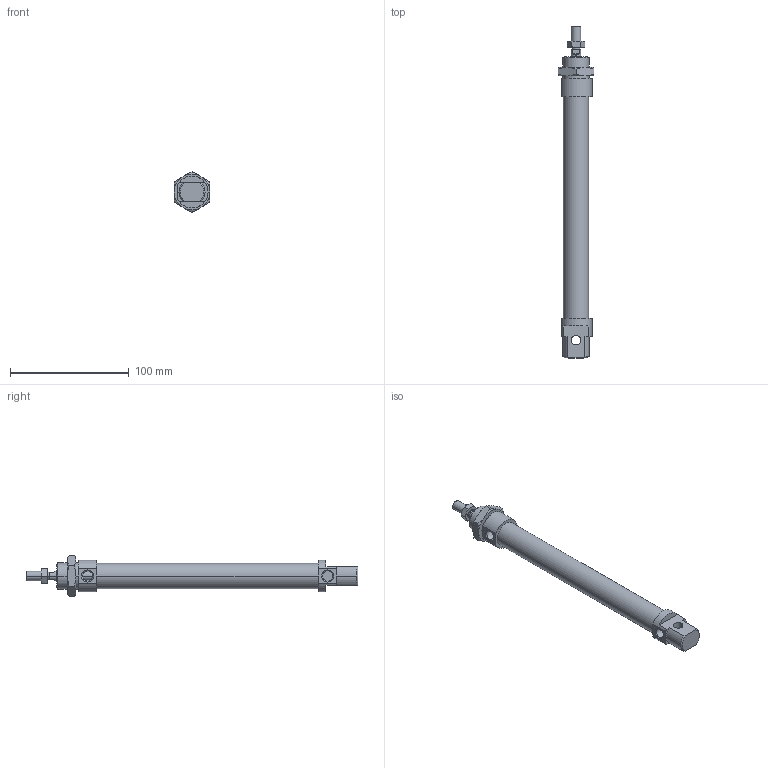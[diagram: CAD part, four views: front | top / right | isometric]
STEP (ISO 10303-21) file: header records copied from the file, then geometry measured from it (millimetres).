
FILE_DESCRIPTION((''),'2;1');
FILE_NAME('I:\DOC-EDP\Lib-3d\1200\CILINDRI\1280\1280_20_0150.stp','2003-04-07T15:53:15',('maffial1'),(''),'Autodesk Inventor (R) 6.0','Autodesk Inventor (R) 6.0','');
FILE_SCHEMA(('AUTOMOTIVE_DESIGN { 1 0 10303 214 1 1 1 1 }'));
Length unit declared in the file: millimetre
Products named in the file (5): 1280_20_0150; S1280_20_150; 1200_20_05; 1200_20_06; C1280_20_150
Assembly tree (4 placements, depth 2):
  1280_20_0150
    S1280_20_150
    1200_20_05
    1200_20_06
    C1280_20_150
Bounding box: 30 x 280 x 34.64 mm (x, y, z)
Volume: 97305.1 mm3; surface area: 32061.6 mm2
Topology: 4 solids, 4 shells, 124 faces, 281 edges, 170 vertices
Faces by surface type: plane 41, cone 40, cylinder 22, bspline 21
Entity records: 3816 total; most frequent: CARTESIAN_POINT 1039, DIRECTION 573, ORIENTED_EDGE 562, EDGE_CURVE 281, AXIS2_PLACEMENT_3D 236, VERTEX_POINT 170, EDGE_LOOP 137, FACE_OUTER_BOUND 124
